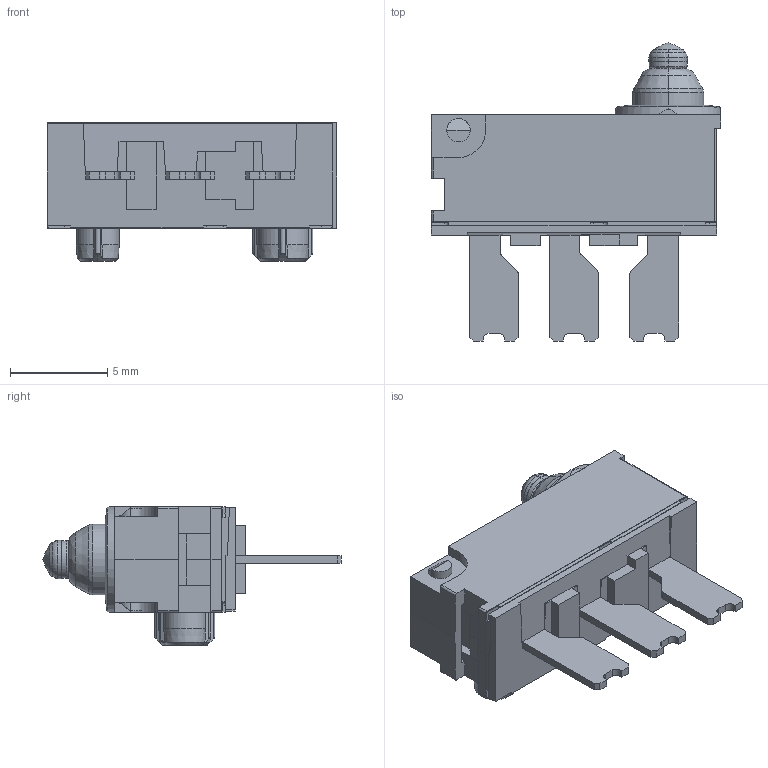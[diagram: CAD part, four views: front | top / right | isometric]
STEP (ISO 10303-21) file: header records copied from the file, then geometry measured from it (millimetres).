
FILE_DESCRIPTION (( 'STEP AP214' ), '1' );
FILE_NAME ('SPVQ740203.STEP', '2018-06-20T01:58:45', ( 'user' ), ( '' ), 'SwSTEP 2.0', 'SolidWorks 2017', '' );
FILE_SCHEMA (( 'AUTOMOTIVE_DESIGN' ));
Length unit declared in the file: millimetre
Products named in the file (1): SPVQ740203
Bounding box: 14.9 x 15.35 x 7.15 mm (x, y, z)
Volume: 532.2 mm3; surface area: 625.8 mm2
Topology: 1 solids, 1 shells, 289 faces, 776 edges, 500 vertices
Faces by surface type: plane 186, cylinder 60, cone 32, bspline 11
Entity records: 10076 total; most frequent: CARTESIAN_POINT 1977, ORIENTED_EDGE 1552, DIRECTION 1461, EDGE_CURVE 776, LINE 551, VECTOR 551, VERTEX_POINT 500, AXIS2_PLACEMENT_3D 455
